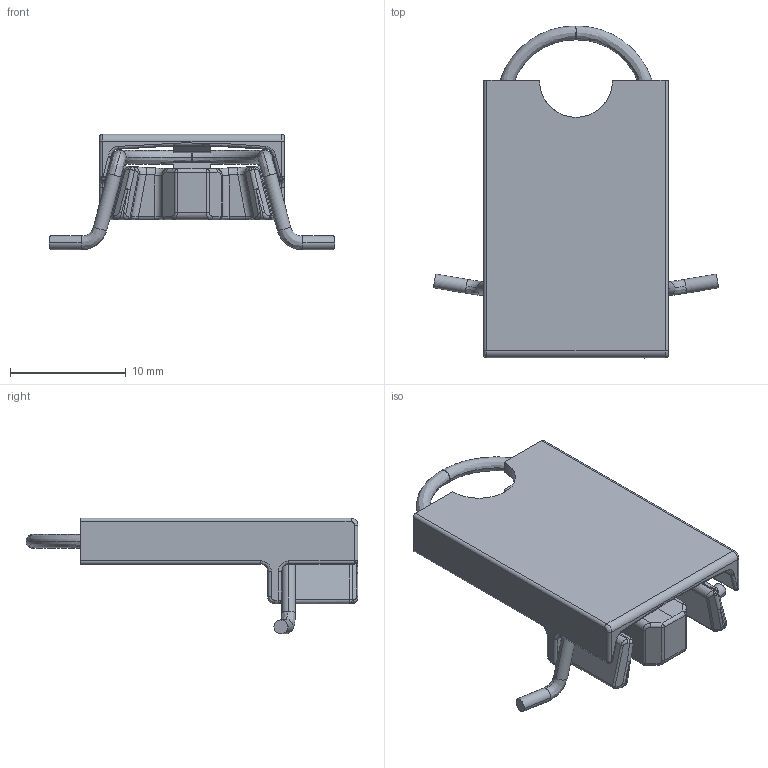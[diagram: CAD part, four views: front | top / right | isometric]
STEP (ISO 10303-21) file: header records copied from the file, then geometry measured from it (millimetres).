
FILE_DESCRIPTION (( 'STEP AP214' ), '1' );
FILE_NAME ('OD-LT-VU02.STEP', '2018-09-10T09:41:47', ( '' ), ( '' ), 'SwSTEP 2.0', 'SolidWorks 2015', '' );
FILE_SCHEMA (( 'AUTOMOTIVE_DESIGN' ));
Length unit declared in the file: millimetre
Products named in the file (1): OD-LT-VU02
Bounding box: 24.66 x 28.7 x 10 mm (x, y, z)
Volume: 1124.6 mm3; surface area: 2183 mm2
Topology: 2 solids, 2 shells, 269 faces, 668 edges, 375 vertices
Faces by surface type: cylinder 108, bspline 107, plane 50, torus 4
Entity records: 14417 total; most frequent: CARTESIAN_POINT 5936, ORIENTED_EDGE 1282, DIRECTION 996, EDGE_CURVE 641, AXIS2_PLACEMENT_3D 388, VERTEX_POINT 375, UNCERTAINTY_MEASURE_WITH_UNIT 273, PRESENTATION_LAYER_ASSIGNMENT 272
